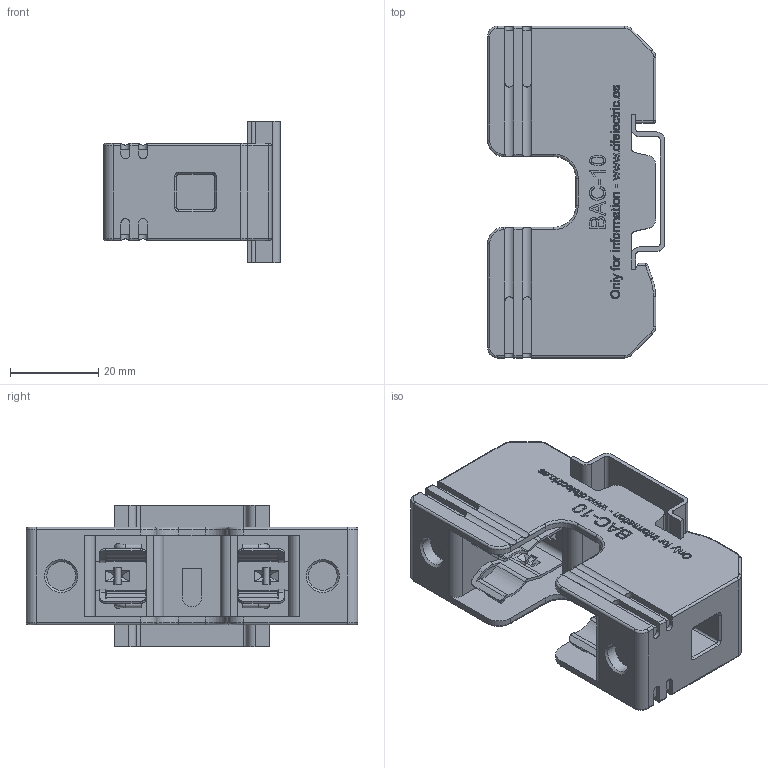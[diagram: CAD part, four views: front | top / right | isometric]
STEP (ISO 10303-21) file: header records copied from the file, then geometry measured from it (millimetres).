
FILE_DESCRIPTION(/* description */ (''),/* implementation_level */ '2;1');
FILE_NAME(/* name */ 'REP_BAC-10_INFO_3D_COMERCIAL.stp',/* time_stamp */ '2021-05-27T08:09:31+02:00',/* author */ (''),/* organization */ (''),/* preprocessor_version */ 'ST-DEVELOPER v16',/* originating_system */ 'SIEMENS PLM Software NX 11.0',/* authorisation */ '');
FILE_SCHEMA (('AUTOMOTIVE_DESIGN { 1 0 10303 214 3 1 1 1 }'));
Length unit declared in the file: millimetre
Products named in the file (1): REP_BAC-10_INFO_3D_COMERCIAL
Bounding box: 40 x 75 x 32 mm (x, y, z)
Volume: 37061 mm3; surface area: 19920.3 mm2
Topology: 3 solids, 3 shells, 955 faces, 2596 edges, 1690 vertices
Faces by surface type: plane 565, cylinder 211, extrusion 135, torus 30, cone 10, sphere 4
Full cylindrical faces by diameter (mm): 1.4 x10, 6.5 x2
Entity records: 33025 total; most frequent: CARTESIAN_POINT 9679, ORIENTED_EDGE 5112, DIRECTION 4255, EDGE_CURVE 2556, VECTOR 1737, VERTEX_POINT 1676, LINE 1602, AXIS2_PLACEMENT_3D 1259
